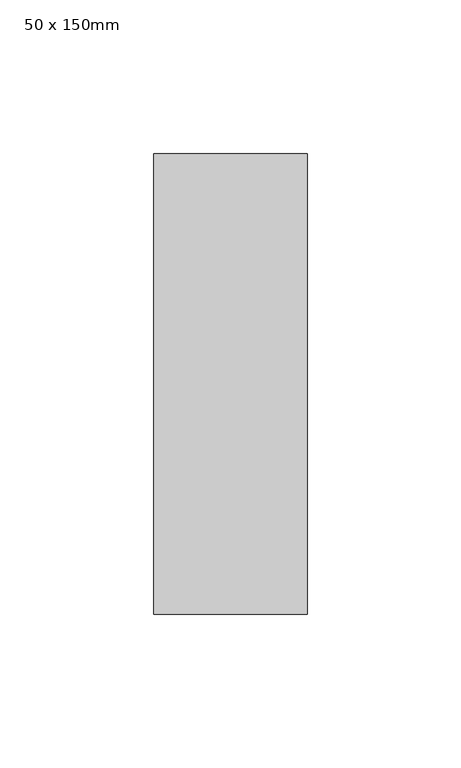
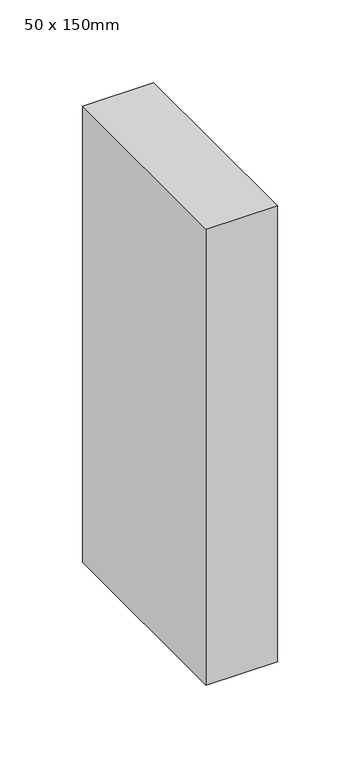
"""IFC4 building model written with IfcOpenShell, lengths in millimetres: member geometry, Прямоугольный импост : 50 x 150mm."""

import ifcopenshell
import ifcopenshell.guid

model = None  # the IFC model being written
_history = None  # IfcOwnerHistory: only IFC2X3 demands one
_inside = {}  # id of a spatial element -> (the spatial element, [elements in it])
_under = {}  # id of a project, library or spatial element -> (it, [spatial elements below it])
_declared = {}  # id of a project -> (the project, [libraries it declares])
_typed = {}  # id of a type object -> (the type object, [elements of that type])
_made_of = {}  # id of a material, layer set ... -> (it, [elements and type objects made of it])


def new_model(schema):
    """Start an empty IFC model of exactly this schema.

    Asked for "IFC4X3", IfcOpenShell would pick the latest addendum, in which some entities
    have other attributes; the version numbers below select the first issue.
    IFC2X3 requires an IfcOwnerHistory on every rooted entity: one is made here for all.
    """
    global model, _history
    if schema == "IFC4X3":
        model = ifcopenshell.file(schema_version=(4, 3, 0, 0))
    else:
        model = ifcopenshell.file(schema=schema)
    _inside.clear()
    _under.clear()
    _declared.clear()
    _typed.clear()
    _made_of.clear()
    _history = None
    if model.schema == "IFC2X3":
        org = make("IfcOrganization", Name="unknown")
        user = make(
            "IfcPersonAndOrganization",
            ThePerson=make("IfcPerson", FamilyName="unknown"),
            TheOrganization=org,
        )
        app = make(
            "IfcApplication",
            ApplicationDeveloper=org,
            Version="unknown",
            ApplicationFullName="unknown",
            ApplicationIdentifier="unknown",
        )
        _history = make(
            "IfcOwnerHistory",
            OwningUser=user,
            OwningApplication=app,
            ChangeAction="ADDED",
            CreationDate=0,
        )
    return model


def make(cls, **values):
    """One entity of the class cls with the attributes given. An attribute that is None is left unset."""
    return model.create_entity(
        cls, **{name: value for name, value in values.items() if value is not None}
    )


def rooted(cls, **values):
    """An entity with a GlobalId (a new one), such as an element, a storey or a relation."""
    return make(cls, GlobalId=ifcopenshell.guid.new(), OwnerHistory=_history, **values)


def si_unit(unit_type, name, prefix=None):
    """IfcSIUnit, for example si_unit("LENGTHUNIT", "METRE", prefix="MILLI")."""
    return make("IfcSIUnit", UnitType=unit_type, Prefix=prefix, Name=name)


def assignment(units):
    """IfcUnitAssignment: the units of a project."""
    return None if units is None else make("IfcUnitAssignment", Units=units)


def point(xyz):
    """IfcCartesianPoint."""
    return None if xyz is None else make("IfcCartesianPoint", Coordinates=xyz)


def direction(xyz):
    """IfcDirection."""
    return None if xyz is None else make("IfcDirection", DirectionRatios=xyz)


def frame(location, z_axis=None, x_axis=None):
    """IfcAxis2Placement3D, a coordinate frame: its origin and axes. An axis left out is left unset."""
    return make(
        "IfcAxis2Placement3D",
        Location=point(location),
        Axis=direction(z_axis),
        RefDirection=direction(x_axis),
    )


def origin():
    """The frame at (0, 0, 0) with its axes left unset."""
    return frame((0.0, 0.0, 0.0))


def place(relative_to, where):
    """IfcLocalPlacement: puts the frame where relative to a parent placement (None: the world)."""
    return make(
        "IfcLocalPlacement", PlacementRelTo=relative_to, RelativePlacement=where
    )


def context(
    kind, dimensions, precision=None, world=None, true_north=None, identifier=None
):
    """IfcGeometricRepresentationContext, for example the 3D "Model" context."""
    return make(
        "IfcGeometricRepresentationContext",
        ContextIdentifier=identifier,
        ContextType=kind,
        CoordinateSpaceDimension=dimensions,
        Precision=precision,
        WorldCoordinateSystem=world,
        TrueNorth=true_north,
    )


def project(units=None, contexts=None):
    """IfcProject with its units and contexts."""
    return rooted(
        "IfcProject",
        Name="project",
        RepresentationContexts=contexts,
        UnitsInContext=assignment(units),
    )


def spatial(cls, under=None, at=None, **own):
    """A site, building, storey or space (cls), placed at a placement, below another one or the project."""
    s = rooted(cls, ObjectPlacement=at, **own)
    if under is not None:
        _under.setdefault(under.id(), (under, []))[1].append(s)
    return s


def polyline(points):
    """IfcPolyline through the points."""
    return make("IfcPolyline", Points=[point(p) for p in points])


def outline(outer, holes=None, kind="AREA"):
    """IfcArbitraryClosedProfileDef: a profile drawn as a closed curve; with holes, ...WithVoids."""
    if holes is None:
        return make("IfcArbitraryClosedProfileDef", ProfileType=kind, OuterCurve=outer)
    return make(
        "IfcArbitraryProfileDefWithVoids",
        ProfileType=kind,
        OuterCurve=outer,
        InnerCurves=holes,
    )


def extrude(swept, where, along, depth):
    """IfcExtrudedAreaSolid: the profile swept, set in the frame where, extruded along a direction by depth."""
    return make(
        "IfcExtrudedAreaSolid",
        SweptArea=swept,
        Position=where,
        ExtrudedDirection=direction(along),
        Depth=depth,
    )


def shape(context_of_items, identifier, shape_type, items):
    """IfcShapeRepresentation: the items that make up one representation, for example the "Body"."""
    return make(
        "IfcShapeRepresentation",
        ContextOfItems=context_of_items,
        RepresentationIdentifier=identifier,
        RepresentationType=shape_type,
        Items=items,
    )


def source(mapping_origin, context_of_items, identifier, shape_type, items):
    """IfcRepresentationMap: a shape defined once, which mapped items show again and again."""
    return make(
        "IfcRepresentationMap",
        MappingOrigin=mapping_origin,
        MappedRepresentation=shape(context_of_items, identifier, shape_type, items),
    )


def transform(
    local_origin,
    x_axis=None,
    y_axis=None,
    z_axis=None,
    scale=None,
    scale2=None,
    scale3=None,
    uniform=True,
):
    """IfcCartesianTransformationOperator3D, or its non-uniform kind. x_axis, y_axis, z_axis: its Axis1, 2, 3."""
    if uniform:
        return make(
            "IfcCartesianTransformationOperator3D",
            Axis1=direction(x_axis),
            Axis2=direction(y_axis),
            LocalOrigin=point(local_origin),
            Scale=scale,
            Axis3=direction(z_axis),
        )
    return make(
        "IfcCartesianTransformationOperator3DnonUniform",
        Axis1=direction(x_axis),
        Axis2=direction(y_axis),
        LocalOrigin=point(local_origin),
        Scale=scale,
        Axis3=direction(z_axis),
        Scale2=scale2,
        Scale3=scale3,
    )


def mapped(mapping_source, mapping_target):
    """IfcMappedItem: shows the shape of a source again, moved by a transform."""
    return make(
        "IfcMappedItem", MappingSource=mapping_source, MappingTarget=mapping_target
    )


def made_of(thing, what):
    """Note that an element or type object is made of a material, layer set ...; save() writes the relation."""
    if what is not None:
        _made_of.setdefault(what.id(), (what, []))[1].append(thing)
    return thing


def element(
    cls,
    number,
    at=None,
    inside=None,
    cuts=None,
    type_object=None,
    material=None,
    context=None,
    identifier="Body",
    shape_type=None,
    held_by="IfcProductDefinitionShape",
    body=None,
    shapes=None,
    **own,
):
    """One element of the class cls, such as IfcWall. Its Tag is "e" and its number.

    at: its placement. inside: the storey or other place that contains it. cuts: it is an
    opening in that element (IfcRelVoidsElement). A single representation is given by context,
    identifier, shape_type and body (its items); several are given by shapes. held_by: the class
    of the entity that holds the representations. save() writes the other relations.
    """
    e = rooted(cls, Tag="e%d" % number, ObjectPlacement=at, **own)
    if body is not None:
        shapes = [shape(context, identifier, shape_type, body)]
    if shapes is not None:
        e.Representation = make(held_by, Representations=shapes)
    if inside is not None:
        _inside.setdefault(inside.id(), (inside, []))[1].append(e)
    if cuts is not None:
        rooted(
            "IfcRelVoidsElement", RelatingBuildingElement=cuts, RelatedOpeningElement=e
        )
    if type_object is not None:
        _typed.setdefault(type_object.id(), (type_object, []))[1].append(e)
    return made_of(e, material)


def aggregate(whole, parts):
    """IfcRelAggregates: a whole, such as a stair, and the parts it consists of."""
    return rooted("IfcRelAggregates", RelatingObject=whole, RelatedObjects=parts)


def save(model, path):
    """Write the relations noted so far, then the file.

    IfcRelAggregates (storeys below a building ...), IfcRelContainedInSpatialStructure (elements
    in a storey), IfcRelDefinesByType, IfcRelAssociatesMaterial and IfcRelDeclares: one each for
    every whole, place, type object, material and project.
    """
    for whole, parts in _under.values():
        aggregate(whole, parts)
    for where, things in _inside.values():
        rooted(
            "IfcRelContainedInSpatialStructure",
            RelatedElements=things,
            RelatingStructure=where,
        )
    for kind, things in _typed.values():
        rooted("IfcRelDefinesByType", RelatedObjects=things, RelatingType=kind)
    for what, things in _made_of.values():
        rooted("IfcRelAssociatesMaterial", RelatedObjects=things, RelatingMaterial=what)
    for by, libraries in _declared.values():
        rooted("IfcRelDeclares", RelatingContext=by, RelatedDefinitions=libraries)
    model.write(path)


def member_50_x_150mm_ec3c8d61(model_context):
    return source(origin(), model_context, "Body", "SweptSolid", [
        extrude(outline(polyline([(0.0, 75.0), (0.0, -75.0), (-50.0, -75.0), (-50.0, 75.0), (0.0, 75.0)])), frame((0.0, 0.0, -337.5), z_axis=(0.0, 0.0, 1.0), x_axis=(1.0, 0.0, 0.0)), (0.0, 0.0, 1.0), 337.5),
    ])


if __name__ == "__main__":
    model = new_model("IFC4")
    model_context = context("Model", 3, world=origin())
    ifc_project = project(units=[si_unit("LENGTHUNIT", "METRE", prefix="MILLI")], contexts=[model_context])
    site = spatial("IfcSite", under=ifc_project)
    building = spatial("IfcBuilding", under=site)
    placement = place(None, origin())
    member_50_x_150mm_shape = member_50_x_150mm_ec3c8d61(model_context)
    element("IfcMember", 1, ObjectType="Прямоугольный импост : 50 x 150mm", at=placement, inside=building, context=model_context, shape_type="MappedRepresentation", body=[
        mapped(member_50_x_150mm_shape, transform((0.0, 0.0, 0.0), x_axis=(1.0, 0.0, 0.0), y_axis=(0.0, 1.0, 0.0), z_axis=(0.0, 0.0, 1.0))),
    ])
    save(model, "model.ifc")
